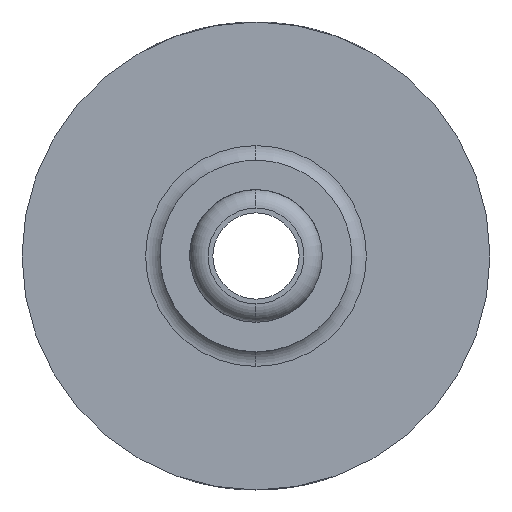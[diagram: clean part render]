
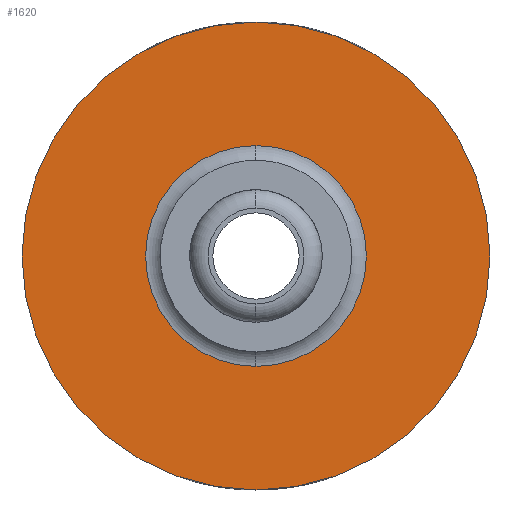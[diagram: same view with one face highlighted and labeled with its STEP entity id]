
A CAD part, left-side view. The second image highlights one B-rep face of the part: STEP entity #1620.
In plain terms, the highlighted planar face has unit normal (-1, 0, 0).
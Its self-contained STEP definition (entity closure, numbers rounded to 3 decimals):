
#362=FACE_BOUND('',#495,.T.);
#372=PLANE('',#1741);
#400=FACE_OUTER_BOUND('',#494,.T.);
#494=EDGE_LOOP('',(#1105,#1106));
#495=EDGE_LOOP('',(#1107,#1108));
#597=CIRCLE('',#1737,1.498);
#601=CIRCLE('',#1742,3.175);
#602=CIRCLE('',#1743,3.175);
#603=CIRCLE('',#1744,1.498);
#669=VERTEX_POINT('',#2244);
#670=VERTEX_POINT('',#2245);
#673=VERTEX_POINT('',#2253);
#674=VERTEX_POINT('',#2254);
#843=EDGE_CURVE('',#669,#670,#597,.T.);
#847=EDGE_CURVE('',#673,#674,#601,.T.);
#848=EDGE_CURVE('',#674,#673,#602,.T.);
#849=EDGE_CURVE('',#670,#669,#603,.T.);
#1105=ORIENTED_EDGE('',*,*,#847,.T.);
#1106=ORIENTED_EDGE('',*,*,#848,.T.);
#1107=ORIENTED_EDGE('',*,*,#849,.T.);
#1108=ORIENTED_EDGE('',*,*,#843,.T.);
#1620=ADVANCED_FACE('',(#400,#362),#372,.F.);
#1737=AXIS2_PLACEMENT_3D('',#2246,#1874,#1875);
#1741=AXIS2_PLACEMENT_3D('',#2252,#1882,#1883);
#1742=AXIS2_PLACEMENT_3D('',#2255,#1884,#1885);
#1743=AXIS2_PLACEMENT_3D('',#2256,#1886,#1887);
#1744=AXIS2_PLACEMENT_3D('',#2257,#1888,#1889);
#1874=DIRECTION('center_axis',(1.,0.,0.));
#1875=DIRECTION('ref_axis',(0.,0.,
1.));
#1882=DIRECTION('center_axis',(1.,0.,0.));
#1883=DIRECTION('ref_axis',(0.,0.,-1.));
#1884=DIRECTION('center_axis',(-1.,0.,0.));
#1885=DIRECTION('ref_axis',(0.,0.,1.));
#1886=DIRECTION('center_axis',(-1.,0.,0.));
#1887=DIRECTION('ref_axis',(0.,0.,
-1.));
#1888=DIRECTION('center_axis',(1.,0.,0.));
#1889=DIRECTION('ref_axis',(0.,0.,-1.));
#2244=CARTESIAN_POINT('',(-6.125,0.,1.498));
#2245=CARTESIAN_POINT('',(-6.125,0.,-1.498));
#2246=CARTESIAN_POINT('Origin',(-6.125,0.,0.));
#2252=CARTESIAN_POINT('Origin',(-6.125,-3.213,0.));
#2253=CARTESIAN_POINT('',(-6.125,0.,3.175));
#2254=CARTESIAN_POINT('',(-6.125,0.,-3.175));
#2255=CARTESIAN_POINT('Origin',(-6.125,0.,0.));
#2256=CARTESIAN_POINT('Origin',(-6.125,0.,0.));
#2257=CARTESIAN_POINT('Origin',(-6.125,0.,0.));
